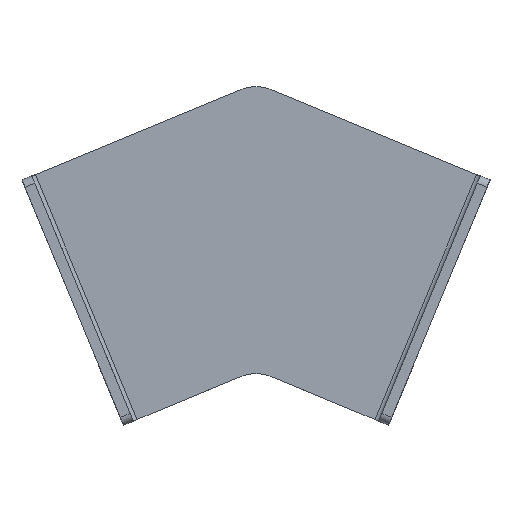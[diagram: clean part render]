
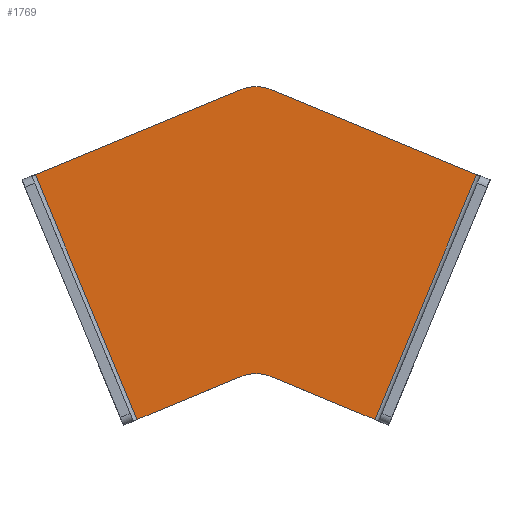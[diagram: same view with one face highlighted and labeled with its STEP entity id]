
A CAD part, top view. The second image highlights one B-rep face of the part: STEP entity #1769.
In plain terms, the highlighted planar face has unit normal (0, 0, 1).
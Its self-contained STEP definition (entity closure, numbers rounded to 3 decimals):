
#42 = CARTESIAN_POINT ( 'NONE',  ( 10.054, 108.16, 4. ) ) ;
#90 = CARTESIAN_POINT ( 'NONE',  ( -34.206, -18.412, 4. ) ) ;
#142 = VECTOR ( 'NONE', #956, 1000. ) ;
#146 = VECTOR ( 'NONE', #326, 1000. ) ;
#150 = VECTOR ( 'NONE', #1479, 1000. ) ;
#177 = CARTESIAN_POINT ( 'NONE',  ( -29.125, -16.307, 4. ) ) ;
#235 = EDGE_CURVE ( 'NONE', #1539, #1087, #527, .T. ) ;
#239 = CARTESIAN_POINT ( 'NONE',  ( -67.393, 76.081, 4. ) ) ;
#253 = VERTEX_POINT ( 'NONE', #1645 ) ;
#264 = EDGE_CURVE ( 'NONE', #510, #315, #845, .T. ) ;
#266 = CARTESIAN_POINT ( 'NONE',  ( 21.534, 108.16, 4. ) ) ;
#299 = CARTESIAN_POINT ( 'NONE',  ( 60.713, -16.307, 4. ) ) ;
#311 = ORIENTED_EDGE ( 'NONE', *, *, #1069, .T. ) ;
#315 = VERTEX_POINT ( 'NONE', #462 ) ;
#326 = DIRECTION ( 'NONE',  ( 0.383, -0.924, 0. ) ) ;
#339 = CARTESIAN_POINT ( 'NONE',  ( 65.794, -18.412, 4. ) ) ;
#347 = EDGE_CURVE ( 'NONE', #1285, #253, #1159, .T. ) ;
#395 = DIRECTION ( 'NONE',  ( -0.924, -0.383, 0. ) ) ;
#433 = EDGE_CURVE ( 'NONE', #1110, #1285, #1375, .T. ) ;
#434 = VECTOR ( 'NONE', #395, 1000. ) ;
#462 = CARTESIAN_POINT ( 'NONE',  ( 10.054, -0.079, 4. ) ) ;
#510 = VERTEX_POINT ( 'NONE', #829 ) ;
#527 = LINE ( 'NONE', #1156, #434 ) ;
#551 = CARTESIAN_POINT ( 'NONE',  ( 21.534, -0.079, 4. ) ) ;
#560 = EDGE_LOOP ( 'NONE', ( #566, #1191, #1063, #1532, #753, #618, #311, #1926 ) ) ;
#566 = ORIENTED_EDGE ( 'NONE', *, *, #235, .T. ) ;
#574 = AXIS2_PLACEMENT_3D ( 'NONE', #619, #1715, #771 ) ;
#618 = ORIENTED_EDGE ( 'NONE', *, *, #347, .T. ) ;
#619 = CARTESIAN_POINT ( 'NONE',  ( 15.794, -13.937, 4. ) ) ;
#753 = ORIENTED_EDGE ( 'NONE', *, *, #433, .T. ) ;
#754 = DIRECTION ( 'NONE',  ( 0., 0., 1. ) ) ;
#771 = DIRECTION ( 'NONE',  ( -1., 0., 0. ) ) ;
#772 = DIRECTION ( 'NONE',  ( 0.383, 0.924, 0. ) ) ;
#786 = VECTOR ( 'NONE', #1169, 1000. ) ;
#829 = CARTESIAN_POINT ( 'NONE',  ( -29.125, -16.307, 4. ) ) ;
#845 = LINE ( 'NONE', #90, #786 ) ;
#901 = VERTEX_POINT ( 'NONE', #266 ) ;
#928 = DIRECTION ( 'NONE',  ( -1., 0., 0. ) ) ;
#956 = DIRECTION ( 'NONE',  ( 0.924, -0.383, 0. ) ) ;
#990 = AXIS2_PLACEMENT_3D ( 'NONE', #1561, #1866, #928 ) ;
#1006 = CARTESIAN_POINT ( 'NONE',  ( 104.062, 73.976, 4. ) ) ;
#1063 = ORIENTED_EDGE ( 'NONE', *, *, #264, .T. ) ;
#1069 = EDGE_CURVE ( 'NONE', #253, #901, #1808, .T. ) ;
#1087 = VERTEX_POINT ( 'NONE', #239 ) ;
#1110 = VERTEX_POINT ( 'NONE', #551 ) ;
#1156 = CARTESIAN_POINT ( 'NONE',  ( -72.474, 73.976, 4. ) ) ;
#1159 = LINE ( 'NONE', #1568, #1578 ) ;
#1162 = FACE_OUTER_BOUND ( 'NONE', #560, .T. ) ;
#1169 = DIRECTION ( 'NONE',  ( 0.924, 0.383, 0. ) ) ;
#1191 = ORIENTED_EDGE ( 'NONE', *, *, #1418, .T. ) ;
#1240 = PLANE ( 'NONE',  #990 ) ;
#1253 = CIRCLE ( 'NONE', #1553, 15. ) ;
#1285 = VERTEX_POINT ( 'NONE', #299 ) ;
#1375 = LINE ( 'NONE', #339, #142 ) ;
#1380 = LINE ( 'NONE', #177, #146 ) ;
#1418 = EDGE_CURVE ( 'NONE', #1087, #510, #1380, .T. ) ;
#1479 = DIRECTION ( 'NONE',  ( -0.924, 0.383, 0. ) ) ;
#1490 = CIRCLE ( 'NONE', #574, 15. ) ;
#1532 = ORIENTED_EDGE ( 'NONE', *, *, #1765, .T. ) ;
#1539 = VERTEX_POINT ( 'NONE', #42 ) ;
#1553 = AXIS2_PLACEMENT_3D ( 'NONE', #1693, #754, #1842 ) ;
#1561 = CARTESIAN_POINT ( 'NONE',  ( 0., 0., 4. ) ) ;
#1568 = CARTESIAN_POINT ( 'NONE',  ( 98.981, 76.081, 4. ) ) ;
#1578 = VECTOR ( 'NONE', #772, 1000. ) ;
#1645 = CARTESIAN_POINT ( 'NONE',  ( 98.981, 76.081, 4. ) ) ;
#1675 = EDGE_CURVE ( 'NONE', #901, #1539, #1253, .T. ) ;
#1693 = CARTESIAN_POINT ( 'NONE',  ( 15.794, 94.302, 4. ) ) ;
#1715 = DIRECTION ( 'NONE',  ( 0., 0., -1. ) ) ;
#1765 = EDGE_CURVE ( 'NONE', #315, #1110, #1490, .T. ) ;
#1769 = ADVANCED_FACE ( 'NONE', ( #1162 ), #1240, .F. ) ;
#1808 = LINE ( 'NONE', #1006, #150 ) ;
#1842 = DIRECTION ( 'NONE',  ( -1., 0., 0. ) ) ;
#1866 = DIRECTION ( 'NONE',  ( 0., 0., -1. ) ) ;
#1926 = ORIENTED_EDGE ( 'NONE', *, *, #1675, .T. ) ;
